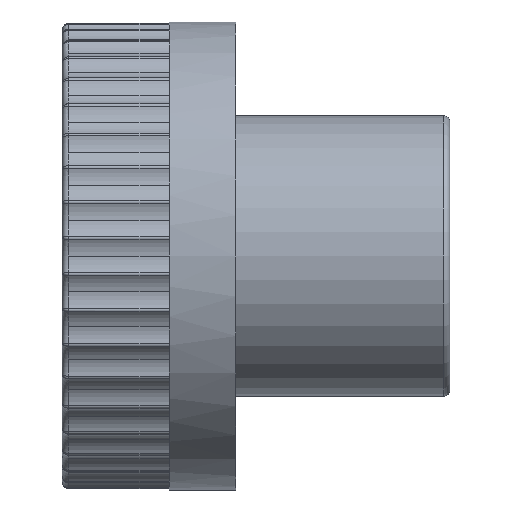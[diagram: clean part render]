
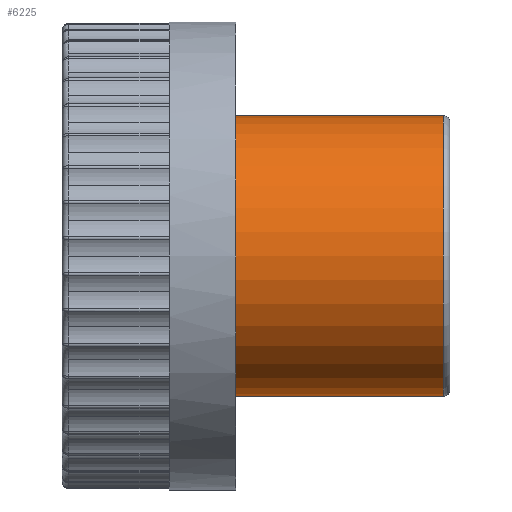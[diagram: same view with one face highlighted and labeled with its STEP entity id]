
A CAD part, left-side view. The second image highlights one B-rep face of the part: STEP entity #6225.
In plain terms, the highlighted cylindrical face has radius 10.5 mm (diameter 21 mm), a partial arc.
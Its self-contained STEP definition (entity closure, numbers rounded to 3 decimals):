
#137 = ORIENTED_EDGE ( 'NONE', *, *, #5549, .T. ) ;
#544 = ORIENTED_EDGE ( 'NONE', *, *, #7372, .T. ) ;
#830 = VERTEX_POINT ( 'NONE', #7404 ) ;
#1112 = VECTOR ( 'NONE', #6409, 1000. ) ;
#1409 = CYLINDRICAL_SURFACE ( 'NONE', #5950, 10.5 ) ;
#1411 = AXIS2_PLACEMENT_3D ( 'NONE', #7129, #3293, #7785 ) ;
#1666 = CARTESIAN_POINT ( 'NONE',  ( 0., 0., 0. ) ) ;
#1796 = DIRECTION ( 'NONE',  ( 0., -1., 0. ) ) ;
#1964 = CARTESIAN_POINT ( 'NONE',  ( 0., 0., -10.5 ) ) ;
#2088 = CARTESIAN_POINT ( 'NONE',  ( 0., 0., 10.5 ) ) ;
#2103 = VECTOR ( 'NONE', #5825, 1000. ) ;
#2863 = LINE ( 'NONE', #1964, #1112 ) ;
#2930 = VERTEX_POINT ( 'NONE', #7552 ) ;
#3023 = DIRECTION ( 'NONE',  ( 0., 0., -1. ) ) ;
#3293 = DIRECTION ( 'NONE',  ( 0., 1., 0. ) ) ;
#3342 = FACE_OUTER_BOUND ( 'NONE', #6335, .T. ) ;
#3740 = CARTESIAN_POINT ( 'NONE',  ( 0., 21.6, 10.5 ) ) ;
#4026 = EDGE_CURVE ( 'NONE', #4527, #6552, #5441, .T. ) ;
#4275 = CIRCLE ( 'NONE', #6701, 10.5 ) ;
#4527 = VERTEX_POINT ( 'NONE', #3740 ) ;
#5339 = CIRCLE ( 'NONE', #1411, 10.5 ) ;
#5441 = LINE ( 'NONE', #2088, #2103 ) ;
#5522 = DIRECTION ( 'NONE',  ( 0., -1., 0. ) ) ;
#5549 = EDGE_CURVE ( 'NONE', #830, #2930, #2863, .T. ) ;
#5574 = CARTESIAN_POINT ( 'NONE',  ( 0., 21.6, 0. ) ) ;
#5709 = CARTESIAN_POINT ( 'NONE',  ( 0., 0.5, 10.5 ) ) ;
#5825 = DIRECTION ( 'NONE',  ( 0., -1., 0. ) ) ;
#5950 = AXIS2_PLACEMENT_3D ( 'NONE', #1666, #5522, #3023 ) ;
#6225 = ADVANCED_FACE ( 'NONE', ( #3342 ), #1409, .T. ) ;
#6256 = DIRECTION ( 'NONE',  ( 0., 0., -1. ) ) ;
#6335 = EDGE_LOOP ( 'NONE', ( #8005, #8206, #137, #544 ) ) ;
#6409 = DIRECTION ( 'NONE',  ( 0., -1., 0. ) ) ;
#6552 = VERTEX_POINT ( 'NONE', #5709 ) ;
#6701 = AXIS2_PLACEMENT_3D ( 'NONE', #5574, #1796, #6256 ) ;
#7129 = CARTESIAN_POINT ( 'NONE',  ( 0., 0.5, 0. ) ) ;
#7372 = EDGE_CURVE ( 'NONE', #2930, #6552, #5339, .T. ) ;
#7404 = CARTESIAN_POINT ( 'NONE',  ( 0., 21.6, -10.5 ) ) ;
#7552 = CARTESIAN_POINT ( 'NONE',  ( 0., 0.5, -10.5 ) ) ;
#7785 = DIRECTION ( 'NONE',  ( 0., 0., -1. ) ) ;
#7808 = EDGE_CURVE ( 'NONE', #4527, #830, #4275, .T. ) ;
#8005 = ORIENTED_EDGE ( 'NONE', *, *, #4026, .F. ) ;
#8206 = ORIENTED_EDGE ( 'NONE', *, *, #7808, .T. ) ;
